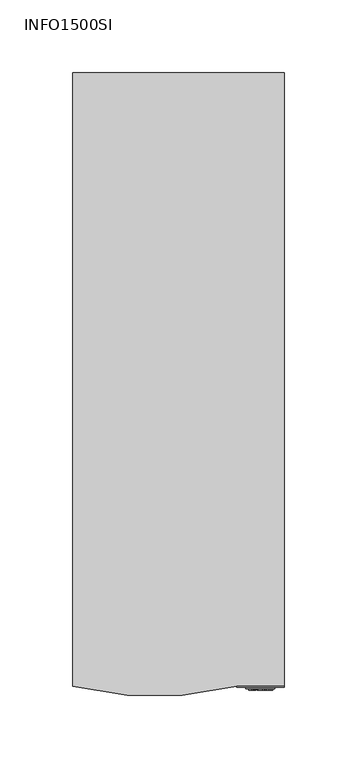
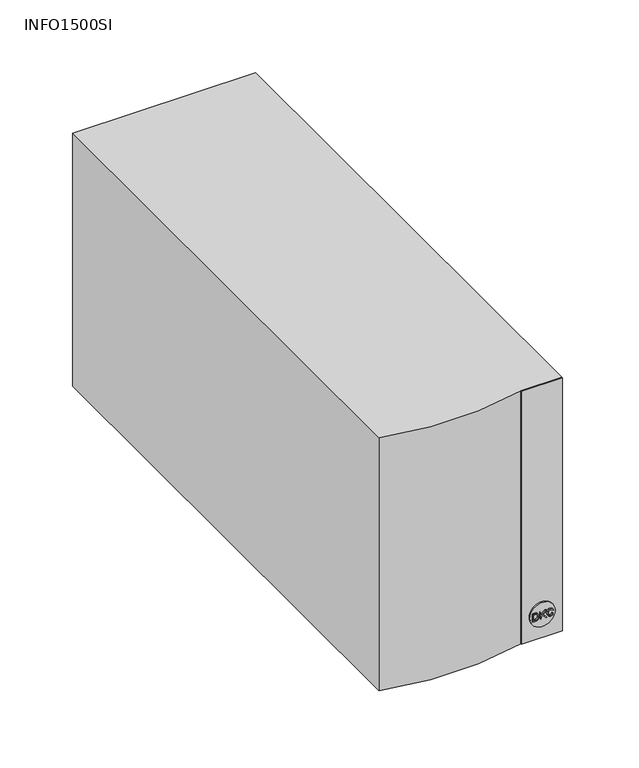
"""IFC4 building model written with IfcOpenShell, lengths in millimetres: proxy geometry, НВО_КНС_ИБПInfoSI_DKC : INFO1500SI."""

from ifc_helpers import new_model, si_unit, point, frame, frame_2d, origin, origin_with_axes, place, context, project, spatial, polyline, circle_curve, trimmed, segment, composite_curve, outline, extrude, source, transform, mapped, element, save


def info1500si_ee5d4c1f(model_context):
    return source(origin(), model_context, "Body", "SweptSolid", [
        extrude(outline(polyline([(17.0, 48.1036211), (17.0, 50.282954), (17.103007, 51.2519552), (17.9520786, 52.5226196), (18.829845, 52.9346475), (20.0460629, 53.095044), (21.4793312, 52.858128), (22.5094008, 52.1444369), (22.9405585, 51.2585771), (23.0273786, 50.1828901), (23.0273786, 48.1036211), (17.0, 48.1036211)]), holes=[polyline([(17.7534223, 48.8570434), (22.2739563, 48.8570434), (22.2739563, 50.1696464), (22.153291, 51.2379757), (21.4852173, 52.0200928), (20.0578351, 52.3416217), (18.9181367, 52.1775463), (17.8623154, 51.1599847), (17.7534223, 50.1902478), (17.7534223, 48.8570434)])]), frame((0.0, 4.25, 0.0), z_axis=(0.0, 1.0, 0.0), x_axis=(0.0, 0.0, 1.0)), (0.0, 0.0, 1.0), 6.0),
        extrude(outline(polyline([(17.0, 54.5077109), (19.0719114, 54.884422), (20.0401768, 55.8997763), (17.0, 58.2012461), (17.0, 59.1224226), (20.5493255, 56.433941), (23.0273786, 59.0282448), (23.0273786, 57.9746308), (20.076965, 54.884422), (23.0273786, 54.1309997), (17.0, 54.5077109)])), frame((0.0, 4.25, 0.0), z_axis=(0.0, 1.0, 0.0), x_axis=(0.0, 0.0, 1.0)), (0.0, 0.0, 1.0), 6.0),
        extrude(outline(polyline([(19.1425447, 63.9254899), (18.0330126, 63.286111), (17.6592445, 62.1331689), (17.9336845, 61.0935343), (18.7628905, 60.3857294), (20.0607782, 60.1583783), (21.180611, 60.3504127), (22.0458694, 61.0162791), (22.3681341, 62.194973), (22.0775073, 63.2132704), (21.3307068, 64.5847345), (22.652139, 63.7334555), (23.1215564, 62.2244036), (22.7588248, 60.7764201), (21.6971173, 59.7618015), (20.0593067, 59.404956), (18.4479835, 59.7205987), (17.3016632, 60.6403037), (16.9058222, 62.2082168), (17.4289504, 63.7856948), (19.1425447, 63.9254899)])), frame((0.0, 4.25, 0.0), z_axis=(0.0, 1.0, 0.0), x_axis=(0.0, 0.0, 1.0)), (0.0, 0.0, 1.0), 6.0),
        extrude(outline(composite_curve([segment(trimmed(circle_curve(frame_2d((20.0, 56.25)), 10.0), [point((20.0, 46.25))], [point((20.0, 66.25))], False, "CARTESIAN"), True, "CONTINUOUS"), segment(trimmed(circle_curve(frame_2d((20.0, 56.25)), 10.0), [point((20.0, 66.25))], [point((20.0, 46.25))], False, "CARTESIAN"), True, "CONTINUOUS")], self_intersect=False)), frame((0.0, 5.25, 0.0), z_axis=(0.0, 1.0, 0.0), x_axis=(0.0, 0.0, 1.0)), (0.0, 0.0, 1.0), 10.0),
        extrude(outline(polyline([(72.5, 6.2), (40.0, 6.2), (40.0, 7.0), (72.5, 7.0), (72.5, 6.2)])), origin_with_axes(), (0.0, 0.0, 1.0), 212.0),
        extrude(outline(composite_curve([segment(polyline([(72.5, 428.0), (72.5, 7.0), (40.0, 7.0)]), True, "CONTINUOUS"), segment(trimmed(circle_curve(frame_2d((-16.25, 229.435312)), 229.4374218), [point((40.0, 7.0))], [point((-72.5, 7.0))], False, "CARTESIAN"), True, "CONTINUOUS"), segment(polyline([(-72.5, 7.0), (-72.5, 428.0), (72.5, 428.0)]), True, "CONTINUOUS")], self_intersect=False)), origin_with_axes(), (0.0, 0.0, 1.0), 212.0),
    ])


if __name__ == "__main__":
    model = new_model("IFC4")
    model_context = context("Model", 3, world=origin())
    ifc_project = project(units=[si_unit("LENGTHUNIT", "METRE", prefix="MILLI")], contexts=[model_context])
    site = spatial("IfcSite", under=ifc_project)
    building = spatial("IfcBuilding", under=site)
    placement = place(None, origin())
    info1500si_shape = info1500si_ee5d4c1f(model_context)
    element("IfcBuildingElementProxy", 1, Name="НВО_КНС_ИБПInfoSI_DKC : INFO1500SI", ObjectType="НВО_КНС_ИБПInfoSI_DKC : INFO1500SI", at=placement, inside=building, context=model_context, shape_type="MappedRepresentation", body=[
        mapped(info1500si_shape, transform((0.0, 0.0, 0.0), x_axis=(1.0, 0.0, 0.0), y_axis=(0.0, 1.0, 0.0), z_axis=(0.0, 0.0, 1.0))),
    ])
    save(model, "model.ifc")
